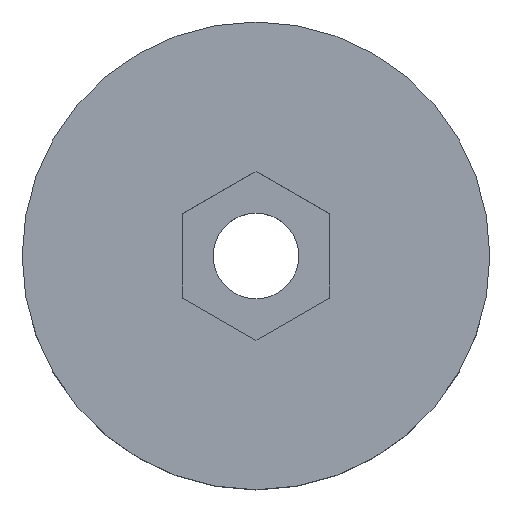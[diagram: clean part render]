
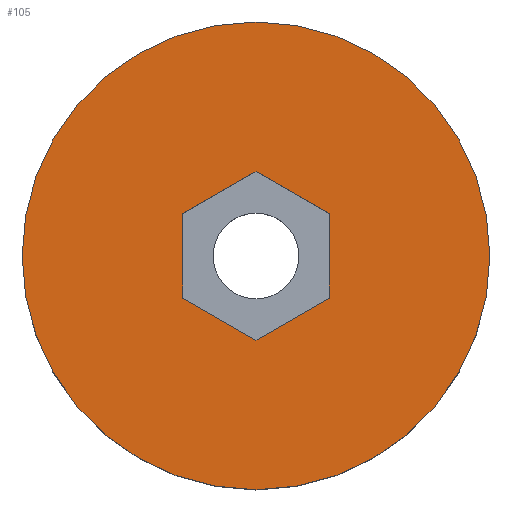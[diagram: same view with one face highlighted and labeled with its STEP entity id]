
A CAD part, top view. The second image highlights one B-rep face of the part: STEP entity #105.
In plain terms, the highlighted planar face has unit normal (0, 0, 1).
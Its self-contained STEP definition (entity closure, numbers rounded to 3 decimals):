
#21 = EDGE_CURVE('',#22,#22,#24,.T.);
#22 = VERTEX_POINT('',#23);
#23 = CARTESIAN_POINT('',(12.,0.,8.));
#24 = SURFACE_CURVE('',#25,(#30,#42),.PCURVE_S1.);
#25 = CIRCLE('',#26,12.);
#26 = AXIS2_PLACEMENT_3D('',#27,#28,#29);
#27 = CARTESIAN_POINT('',(0.,0.,8.));
#28 = DIRECTION('',(0.,0.,1.));
#29 = DIRECTION('',(1.,0.,-0.));
#30 = PCURVE('',#31,#36);
#31 = CYLINDRICAL_SURFACE('',#32,12.);
#32 = AXIS2_PLACEMENT_3D('',#33,#34,#35);
#33 = CARTESIAN_POINT('',(0.,0.,0.));
#34 = DIRECTION('',(0.,0.,1.));
#35 = DIRECTION('',(1.,0.,-0.));
#36 = DEFINITIONAL_REPRESENTATION('',(#37),#41);
#37 = LINE('',#38,#39);
#38 = CARTESIAN_POINT('',(0.,8.));
#39 = VECTOR('',#40,1.);
#40 = DIRECTION('',(1.,0.));
#41 = ( GEOMETRIC_REPRESENTATION_CONTEXT(2) 
PARAMETRIC_REPRESENTATION_CONTEXT() REPRESENTATION_CONTEXT('2D SPACE',''
  ) );
#42 = PCURVE('',#43,#48);
#43 = PLANE('',#44);
#44 = AXIS2_PLACEMENT_3D('',#45,#46,#47);
#45 = CARTESIAN_POINT('',(0.,0.,8.));
#46 = DIRECTION('',(0.,0.,1.));
#47 = DIRECTION('',(1.,0.,-0.));
#48 = DEFINITIONAL_REPRESENTATION('',(#49),#53);
#49 = CIRCLE('',#50,12.);
#50 = AXIS2_PLACEMENT_2D('',#51,#52);
#51 = CARTESIAN_POINT('',(0.,0.));
#52 = DIRECTION('',(1.,0.));
#53 = ( GEOMETRIC_REPRESENTATION_CONTEXT(2) 
PARAMETRIC_REPRESENTATION_CONTEXT() REPRESENTATION_CONTEXT('2D SPACE',''
  ) );
#105 = ADVANCED_FACE('',(#106,#109),#43,.T.);
#106 = FACE_BOUND('',#107,.T.);
#107 = EDGE_LOOP('',(#108));
#108 = ORIENTED_EDGE('',*,*,#21,.T.);
#109 = FACE_BOUND('',#110,.T.);
#110 = EDGE_LOOP('',(#111,#139,#165,#191,#217,#243));
#111 = ORIENTED_EDGE('',*,*,#112,.T.);
#112 = EDGE_CURVE('',#113,#115,#117,.T.);
#113 = VERTEX_POINT('',#114);
#114 = CARTESIAN_POINT('',(-3.75,2.165,8.));
#115 = VERTEX_POINT('',#116);
#116 = CARTESIAN_POINT('',(0.,4.33,8.));
#117 = SURFACE_CURVE('',#118,(#122,#128),.PCURVE_S1.);
#118 = LINE('',#119,#120);
#119 = CARTESIAN_POINT('',(-0.938,3.789,8.));
#120 = VECTOR('',#121,1.);
#121 = DIRECTION('',(0.866,0.5,-0.));
#122 = PCURVE('',#43,#123);
#123 = DEFINITIONAL_REPRESENTATION('',(#124),#127);
#124 = B_SPLINE_CURVE_WITH_KNOTS('',1,(#125,#126),.UNSPECIFIED.,.F.,.F.,
  (2,2),(-3.248,1.083),.PIECEWISE_BEZIER_KNOTS.);
#125 = CARTESIAN_POINT('',(-3.75,2.165));
#126 = CARTESIAN_POINT('',(0.,4.33));
#127 = ( GEOMETRIC_REPRESENTATION_CONTEXT(2) 
PARAMETRIC_REPRESENTATION_CONTEXT() REPRESENTATION_CONTEXT('2D SPACE',''
  ) );
#128 = PCURVE('',#129,#134);
#129 = PLANE('',#130);
#130 = AXIS2_PLACEMENT_3D('',#131,#132,#133);
#131 = CARTESIAN_POINT('',(0.,4.33,4.5));
#132 = DIRECTION('',(0.5,-0.866,0.));
#133 = DIRECTION('',(-0.866,-0.5,0.));
#134 = DEFINITIONAL_REPRESENTATION('',(#135),#138);
#135 = B_SPLINE_CURVE_WITH_KNOTS('',1,(#136,#137),.UNSPECIFIED.,.F.,.F.,
  (2,2),(-3.248,1.083),.PIECEWISE_BEZIER_KNOTS.);
#136 = CARTESIAN_POINT('',(4.33,-3.5));
#137 = CARTESIAN_POINT('',(0.,-3.5));
#138 = ( GEOMETRIC_REPRESENTATION_CONTEXT(2) 
PARAMETRIC_REPRESENTATION_CONTEXT() REPRESENTATION_CONTEXT('2D SPACE',''
  ) );
#139 = ORIENTED_EDGE('',*,*,#140,.T.);
#140 = EDGE_CURVE('',#115,#141,#143,.T.);
#141 = VERTEX_POINT('',#142);
#142 = CARTESIAN_POINT('',(3.75,2.165,8.));
#143 = SURFACE_CURVE('',#144,(#148,#154),.PCURVE_S1.);
#144 = LINE('',#145,#146);
#145 = CARTESIAN_POINT('',(2.813,2.706,8.));
#146 = VECTOR('',#147,1.);
#147 = DIRECTION('',(0.866,-0.5,0.));
#148 = PCURVE('',#43,#149);
#149 = DEFINITIONAL_REPRESENTATION('',(#150),#153);
#150 = B_SPLINE_CURVE_WITH_KNOTS('',1,(#151,#152),.UNSPECIFIED.,.F.,.F.,
  (2,2),(-3.248,1.083),.PIECEWISE_BEZIER_KNOTS.);
#151 = CARTESIAN_POINT('',(0.,4.33));
#152 = CARTESIAN_POINT('',(3.75,2.165));
#153 = ( GEOMETRIC_REPRESENTATION_CONTEXT(2) 
PARAMETRIC_REPRESENTATION_CONTEXT() REPRESENTATION_CONTEXT('2D SPACE',''
  ) );
#154 = PCURVE('',#155,#160);
#155 = PLANE('',#156);
#156 = AXIS2_PLACEMENT_3D('',#157,#158,#159);
#157 = CARTESIAN_POINT('',(3.75,2.165,4.5));
#158 = DIRECTION('',(-0.5,-0.866,0.));
#159 = DIRECTION('',(-0.866,0.5,0.));
#160 = DEFINITIONAL_REPRESENTATION('',(#161),#164);
#161 = B_SPLINE_CURVE_WITH_KNOTS('',1,(#162,#163),.UNSPECIFIED.,.F.,.F.,
  (2,2),(-3.248,1.083),.PIECEWISE_BEZIER_KNOTS.);
#162 = CARTESIAN_POINT('',(4.33,-3.5));
#163 = CARTESIAN_POINT('',(0.,-3.5));
#164 = ( GEOMETRIC_REPRESENTATION_CONTEXT(2) 
PARAMETRIC_REPRESENTATION_CONTEXT() REPRESENTATION_CONTEXT('2D SPACE',''
  ) );
#165 = ORIENTED_EDGE('',*,*,#166,.T.);
#166 = EDGE_CURVE('',#141,#167,#169,.T.);
#167 = VERTEX_POINT('',#168);
#168 = CARTESIAN_POINT('',(3.75,-2.165,8.));
#169 = SURFACE_CURVE('',#170,(#174,#180),.PCURVE_S1.);
#170 = LINE('',#171,#172);
#171 = CARTESIAN_POINT('',(3.75,-1.083,8.));
#172 = VECTOR('',#173,1.);
#173 = DIRECTION('',(0.,-1.,0.));
#174 = PCURVE('',#43,#175);
#175 = DEFINITIONAL_REPRESENTATION('',(#176),#179);
#176 = B_SPLINE_CURVE_WITH_KNOTS('',1,(#177,#178),.UNSPECIFIED.,.F.,.F.,
  (2,2),(-3.248,1.083),.PIECEWISE_BEZIER_KNOTS.);
#177 = CARTESIAN_POINT('',(3.75,2.165));
#178 = CARTESIAN_POINT('',(3.75,-2.165));
#179 = ( GEOMETRIC_REPRESENTATION_CONTEXT(2) 
PARAMETRIC_REPRESENTATION_CONTEXT() REPRESENTATION_CONTEXT('2D SPACE',''
  ) );
#180 = PCURVE('',#181,#186);
#181 = PLANE('',#182);
#182 = AXIS2_PLACEMENT_3D('',#183,#184,#185);
#183 = CARTESIAN_POINT('',(3.75,-2.165,4.5));
#184 = DIRECTION('',(-1.,0.,0.));
#185 = DIRECTION('',(0.,1.,0.));
#186 = DEFINITIONAL_REPRESENTATION('',(#187),#190);
#187 = B_SPLINE_CURVE_WITH_KNOTS('',1,(#188,#189),.UNSPECIFIED.,.F.,.F.,
  (2,2),(-3.248,1.083),.PIECEWISE_BEZIER_KNOTS.);
#188 = CARTESIAN_POINT('',(4.33,-3.5));
#189 = CARTESIAN_POINT('',(0.,-3.5));
#190 = ( GEOMETRIC_REPRESENTATION_CONTEXT(2) 
PARAMETRIC_REPRESENTATION_CONTEXT() REPRESENTATION_CONTEXT('2D SPACE',''
  ) );
#191 = ORIENTED_EDGE('',*,*,#192,.T.);
#192 = EDGE_CURVE('',#167,#193,#195,.T.);
#193 = VERTEX_POINT('',#194);
#194 = CARTESIAN_POINT('',(0.,-4.33,8.));
#195 = SURFACE_CURVE('',#196,(#200,#206),.PCURVE_S1.);
#196 = LINE('',#197,#198);
#197 = CARTESIAN_POINT('',(0.938,-3.789,8.));
#198 = VECTOR('',#199,1.);
#199 = DIRECTION('',(-0.866,-0.5,0.));
#200 = PCURVE('',#43,#201);
#201 = DEFINITIONAL_REPRESENTATION('',(#202),#205);
#202 = B_SPLINE_CURVE_WITH_KNOTS('',1,(#203,#204),.UNSPECIFIED.,.F.,.F.,
  (2,2),(-3.248,1.083),.PIECEWISE_BEZIER_KNOTS.);
#203 = CARTESIAN_POINT('',(3.75,-2.165));
#204 = CARTESIAN_POINT('',(0.,-4.33));
#205 = ( GEOMETRIC_REPRESENTATION_CONTEXT(2) 
PARAMETRIC_REPRESENTATION_CONTEXT() REPRESENTATION_CONTEXT('2D SPACE',''
  ) );
#206 = PCURVE('',#207,#212);
#207 = PLANE('',#208);
#208 = AXIS2_PLACEMENT_3D('',#209,#210,#211);
#209 = CARTESIAN_POINT('',(0.,-4.33,4.5));
#210 = DIRECTION('',(-0.5,0.866,0.));
#211 = DIRECTION('',(0.866,0.5,0.));
#212 = DEFINITIONAL_REPRESENTATION('',(#213),#216);
#213 = B_SPLINE_CURVE_WITH_KNOTS('',1,(#214,#215),.UNSPECIFIED.,.F.,.F.,
  (2,2),(-3.248,1.083),.PIECEWISE_BEZIER_KNOTS.);
#214 = CARTESIAN_POINT('',(4.33,-3.5));
#215 = CARTESIAN_POINT('',(0.,-3.5));
#216 = ( GEOMETRIC_REPRESENTATION_CONTEXT(2) 
PARAMETRIC_REPRESENTATION_CONTEXT() REPRESENTATION_CONTEXT('2D SPACE',''
  ) );
#217 = ORIENTED_EDGE('',*,*,#218,.T.);
#218 = EDGE_CURVE('',#193,#219,#221,.T.);
#219 = VERTEX_POINT('',#220);
#220 = CARTESIAN_POINT('',(-3.75,-2.165,8.));
#221 = SURFACE_CURVE('',#222,(#226,#232),.PCURVE_S1.);
#222 = LINE('',#223,#224);
#223 = CARTESIAN_POINT('',(-2.813,-2.706,8.));
#224 = VECTOR('',#225,1.);
#225 = DIRECTION('',(-0.866,0.5,0.));
#226 = PCURVE('',#43,#227);
#227 = DEFINITIONAL_REPRESENTATION('',(#228),#231);
#228 = B_SPLINE_CURVE_WITH_KNOTS('',1,(#229,#230),.UNSPECIFIED.,.F.,.F.,
  (2,2),(-3.248,1.083),.PIECEWISE_BEZIER_KNOTS.);
#229 = CARTESIAN_POINT('',(0.,-4.33));
#230 = CARTESIAN_POINT('',(-3.75,-2.165));
#231 = ( GEOMETRIC_REPRESENTATION_CONTEXT(2) 
PARAMETRIC_REPRESENTATION_CONTEXT() REPRESENTATION_CONTEXT('2D SPACE',''
  ) );
#232 = PCURVE('',#233,#238);
#233 = PLANE('',#234);
#234 = AXIS2_PLACEMENT_3D('',#235,#236,#237);
#235 = CARTESIAN_POINT('',(-3.75,-2.165,4.5));
#236 = DIRECTION('',(0.5,0.866,-0.));
#237 = DIRECTION('',(0.866,-0.5,0.));
#238 = DEFINITIONAL_REPRESENTATION('',(#239),#242);
#239 = B_SPLINE_CURVE_WITH_KNOTS('',1,(#240,#241),.UNSPECIFIED.,.F.,.F.,
  (2,2),(-3.248,1.083),.PIECEWISE_BEZIER_KNOTS.);
#240 = CARTESIAN_POINT('',(4.33,-3.5));
#241 = CARTESIAN_POINT('',(0.,-3.5));
#242 = ( GEOMETRIC_REPRESENTATION_CONTEXT(2) 
PARAMETRIC_REPRESENTATION_CONTEXT() REPRESENTATION_CONTEXT('2D SPACE',''
  ) );
#243 = ORIENTED_EDGE('',*,*,#244,.T.);
#244 = EDGE_CURVE('',#219,#113,#245,.T.);
#245 = SURFACE_CURVE('',#246,(#250,#256),.PCURVE_S1.);
#246 = LINE('',#247,#248);
#247 = CARTESIAN_POINT('',(-3.75,1.083,8.));
#248 = VECTOR('',#249,1.);
#249 = DIRECTION('',(0.,1.,0.));
#250 = PCURVE('',#43,#251);
#251 = DEFINITIONAL_REPRESENTATION('',(#252),#255);
#252 = B_SPLINE_CURVE_WITH_KNOTS('',1,(#253,#254),.UNSPECIFIED.,.F.,.F.,
  (2,2),(-3.248,1.083),.PIECEWISE_BEZIER_KNOTS.);
#253 = CARTESIAN_POINT('',(-3.75,-2.165));
#254 = CARTESIAN_POINT('',(-3.75,2.165));
#255 = ( GEOMETRIC_REPRESENTATION_CONTEXT(2) 
PARAMETRIC_REPRESENTATION_CONTEXT() REPRESENTATION_CONTEXT('2D SPACE',''
  ) );
#256 = PCURVE('',#257,#262);
#257 = PLANE('',#258);
#258 = AXIS2_PLACEMENT_3D('',#259,#260,#261);
#259 = CARTESIAN_POINT('',(-3.75,2.165,4.5));
#260 = DIRECTION('',(1.,0.,-0.));
#261 = DIRECTION('',(0.,-1.,0.));
#262 = DEFINITIONAL_REPRESENTATION('',(#263),#266);
#263 = B_SPLINE_CURVE_WITH_KNOTS('',1,(#264,#265),.UNSPECIFIED.,.F.,.F.,
  (2,2),(-3.248,1.083),.PIECEWISE_BEZIER_KNOTS.);
#264 = CARTESIAN_POINT('',(4.33,-3.5));
#265 = CARTESIAN_POINT('',(0.,-3.5));
#266 = ( GEOMETRIC_REPRESENTATION_CONTEXT(2) 
PARAMETRIC_REPRESENTATION_CONTEXT() REPRESENTATION_CONTEXT('2D SPACE',''
  ) );
